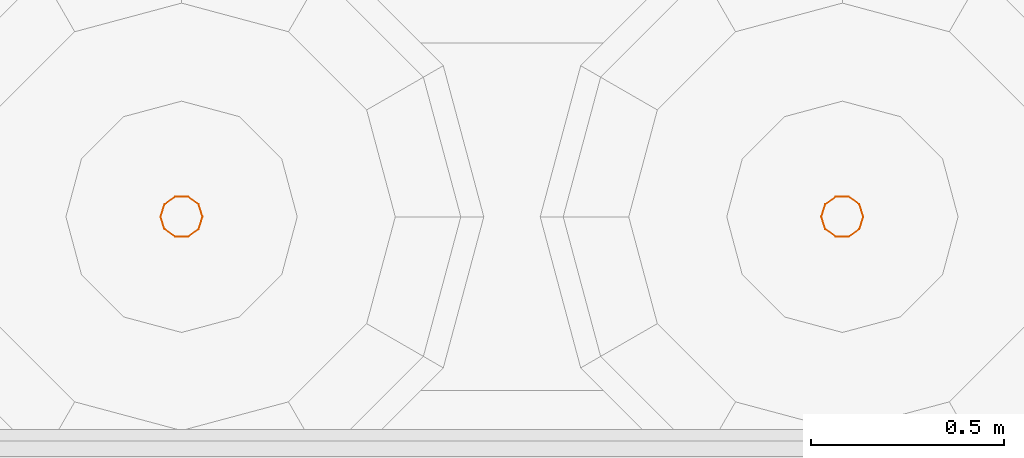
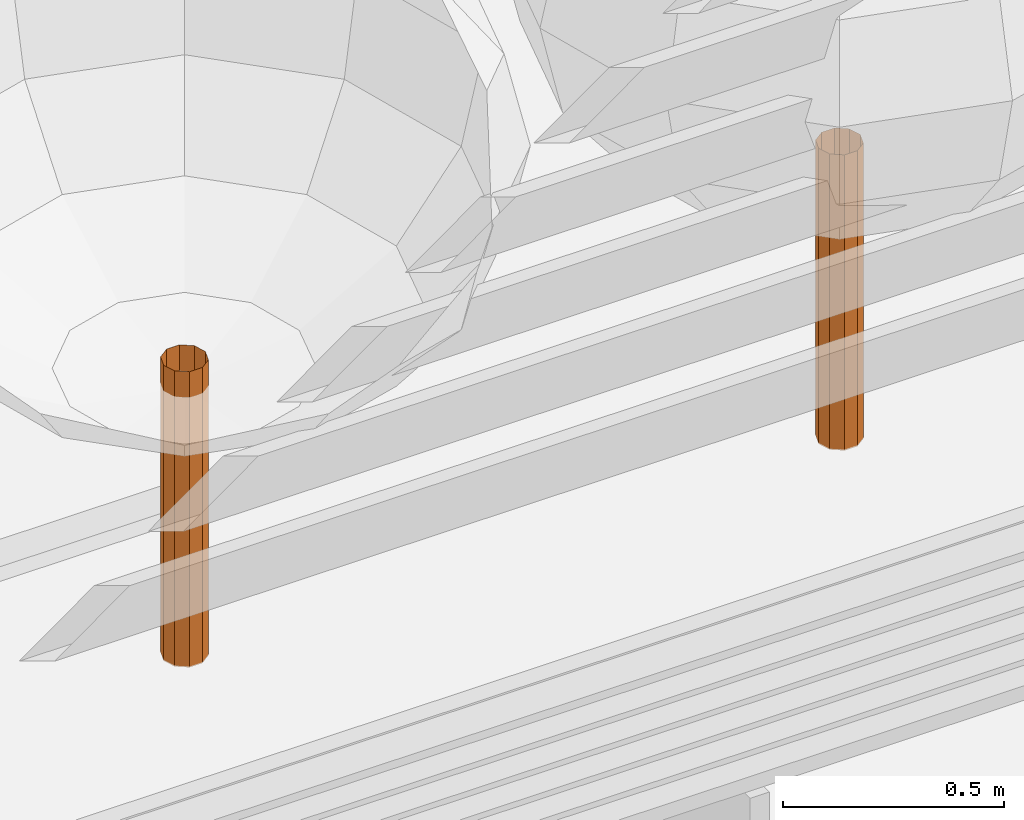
# One storey, part 176 of 177: 2 geographic elements.
"""IFC4 building model written with IfcOpenShell, lengths in metres."""

from ifc_helpers import new_model, si_unit, origin, origin_with_axes, place, context, subcontext, project, spatial, triangles, element, save


model = new_model("IFC4")

# Units and contexts
model_context = context("Model", 3, precision=1e-05, world=origin_with_axes())
body_context = subcontext(model_context, "Body", "Model", "MODEL_VIEW")
ifc_project = project(units=[si_unit("LENGTHUNIT", "METRE"), si_unit("AREAUNIT", "SQUARE_METRE"), si_unit("VOLUMEUNIT", "CUBIC_METRE"), si_unit("PLANEANGLEUNIT", "RADIAN")], contexts=[model_context])

# Site, building, storey
site_placement = place(None, origin_with_axes())
site = spatial("IfcSite", under=ifc_project, at=site_placement, Name="Predio Los Mangos - Morales, San Martín", CompositionType="ELEMENT")
building_placement = place(site_placement, origin())
building = spatial("IfcBuilding", under=site, at=building_placement, Name="Hogar de Refugio Temporal", CompositionType="ELEMENT")
storey_placement = place(building_placement, origin())
storey = spatial("IfcBuildingStorey", under=building, at=storey_placement, Name="NIVEL 1 (NPT +0.00)", CompositionType="ELEMENT", Elevation=0.0)

# Geographic elements
geographic_element_1_placement = place(storey_placement, origin())
element("IfcGeographicElement", 1, at=geographic_element_1_placement, inside=storey, Name="arbol_tronco", ObjectType="Árbol", PredefinedType="NOTDEFINED", context=body_context, shape_type="Tessellation", body=[
    triangles([(35.7094, 74.4, 0.45), (35.699, 74.432, 0.45), (35.6718, 74.4517, 0.45), (35.6382, 74.4517, 0.45), (35.611, 74.432, 0.45), (35.6006, 74.4, 0.45), (35.611, 74.368, 0.45), (35.6382, 74.3483, 0.45), (35.6718, 74.3483, 0.45), (35.699, 74.368, 0.45), (35.7094, 74.4, 1.266), (35.699, 74.432, 1.266), (35.6718, 74.4517, 1.266), (35.6382, 74.4517, 1.266), (35.611, 74.432, 1.266), (35.6006, 74.4, 1.266), (35.611, 74.368, 1.266), (35.6382, 74.3483, 1.266), (35.6718, 74.3483, 1.266), (35.699, 74.368, 1.266)], [[1, 2, 12], [2, 3, 13], [3, 4, 14], [4, 5, 15], [5, 6, 16], [6, 7, 17], [7, 8, 18], [8, 9, 19], [9, 10, 20], [10, 1, 11], [1, 12, 11], [2, 13, 12], [3, 14, 13], [4, 15, 14], [5, 16, 15], [6, 17, 16], [7, 18, 17], [8, 19, 18], [9, 20, 19], [10, 11, 20]]),
])
geographic_element_2_placement = place(storey_placement, origin())
element("IfcGeographicElement", 2, at=geographic_element_2_placement, inside=storey, Name="arbol_tronco", ObjectType="Árbol", PredefinedType="NOTDEFINED", context=body_context, shape_type="Tessellation", body=[
    triangles([(33.9994, 74.4, 0.45), (33.989, 74.432, 0.45), (33.9618, 74.4517, 0.45), (33.9282, 74.4517, 0.45), (33.901, 74.432, 0.45), (33.8906, 74.4, 0.45), (33.901, 74.368, 0.45), (33.9282, 74.3483, 0.45), (33.9618, 74.3483, 0.45), (33.989, 74.368, 0.45), (33.9994, 74.4, 1.266), (33.989, 74.432, 1.266), (33.9618, 74.4517, 1.266), (33.9282, 74.4517, 1.266), (33.901, 74.432, 1.266), (33.8906, 74.4, 1.266), (33.901, 74.368, 1.266), (33.9282, 74.3483, 1.266), (33.9618, 74.3483, 1.266), (33.989, 74.368, 1.266)], [[1, 2, 12], [2, 3, 13], [3, 4, 14], [4, 5, 15], [5, 6, 16], [6, 7, 17], [7, 8, 18], [8, 9, 19], [9, 10, 20], [10, 1, 11], [1, 12, 11], [2, 13, 12], [3, 14, 13], [4, 15, 14], [5, 16, 15], [6, 17, 16], [7, 18, 17], [8, 19, 18], [9, 20, 19], [10, 11, 20]]),
])

save(model, "model.ifc")
